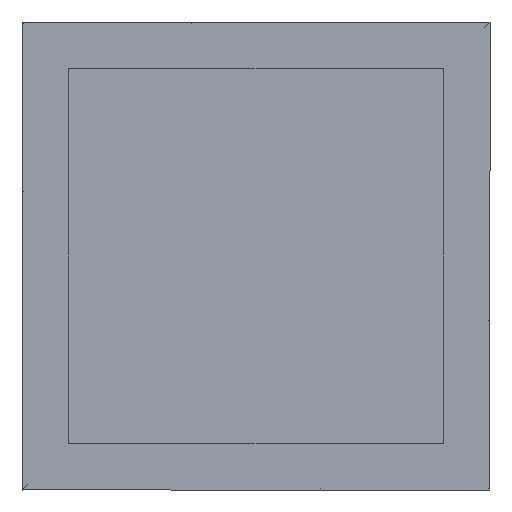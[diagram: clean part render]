
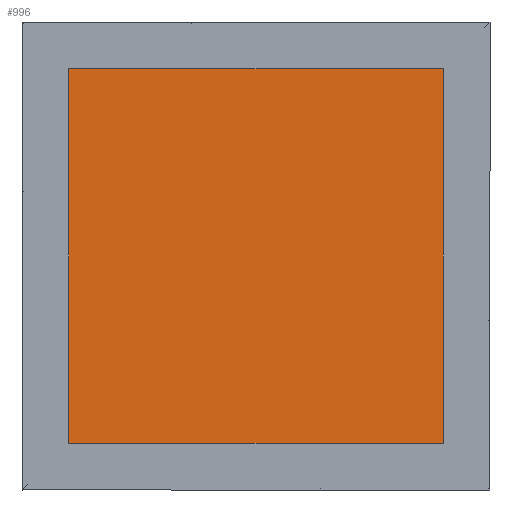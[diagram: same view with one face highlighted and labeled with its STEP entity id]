
A CAD part, front view. The second image highlights one B-rep face of the part: STEP entity #996.
In plain terms, the highlighted planar face has unit normal (0, -1, 0).
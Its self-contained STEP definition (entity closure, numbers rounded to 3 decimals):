
#20 = LINE ( 'NONE', #785, #889 ) ;
#77 = DIRECTION ( 'NONE',  ( -1., 0., 0. ) ) ;
#118 = CARTESIAN_POINT ( 'NONE',  ( 400., 0., 400. ) ) ;
#156 = VECTOR ( 'NONE', #529, 1000. ) ;
#200 = DIRECTION ( 'NONE',  ( 0., 0., -1. ) ) ;
#206 = VERTEX_POINT ( 'NONE', #790 ) ;
#286 = EDGE_CURVE ( 'NONE', #814, #566, #415, .T. ) ;
#322 = ORIENTED_EDGE ( 'NONE', *, *, #691, .T. ) ;
#348 = EDGE_CURVE ( 'NONE', #524, #206, #690, .T. ) ;
#352 = DIRECTION ( 'NONE',  ( -1., 0., 0. ) ) ;
#364 = PLANE ( 'NONE',  #515 ) ;
#415 = LINE ( 'NONE', #564, #611 ) ;
#510 = FACE_OUTER_BOUND ( 'NONE', #957, .T. ) ;
#515 = AXIS2_PLACEMENT_3D ( 'NONE', #882, #791, #200 ) ;
#521 = ORIENTED_EDGE ( 'NONE', *, *, #950, .F. ) ;
#524 = VERTEX_POINT ( 'NONE', #680 ) ;
#529 = DIRECTION ( 'NONE',  ( 0., 0., -1. ) ) ;
#542 = LINE ( 'NONE', #118, #156 ) ;
#564 = CARTESIAN_POINT ( 'NONE',  ( 400., 0., -400. ) ) ;
#566 = VERTEX_POINT ( 'NONE', #1034 ) ;
#575 = ORIENTED_EDGE ( 'NONE', *, *, #348, .T. ) ;
#582 = VECTOR ( 'NONE', #77, 1000. ) ;
#611 = VECTOR ( 'NONE', #352, 1000. ) ;
#680 = CARTESIAN_POINT ( 'NONE',  ( 400., 0., 400. ) ) ;
#690 = LINE ( 'NONE', #1096, #582 ) ;
#691 = EDGE_CURVE ( 'NONE', #206, #566, #20, .T. ) ;
#785 = CARTESIAN_POINT ( 'NONE',  ( -400., 0., 400. ) ) ;
#790 = CARTESIAN_POINT ( 'NONE',  ( -400., 0., 400. ) ) ;
#791 = DIRECTION ( 'NONE',  ( 0., -1., 0. ) ) ;
#814 = VERTEX_POINT ( 'NONE', #981 ) ;
#882 = CARTESIAN_POINT ( 'NONE',  ( 0., 0., 0. ) ) ;
#889 = VECTOR ( 'NONE', #1044, 1000. ) ;
#950 = EDGE_CURVE ( 'NONE', #524, #814, #542, .T. ) ;
#957 = EDGE_LOOP ( 'NONE', ( #575, #322, #1025, #521 ) ) ;
#981 = CARTESIAN_POINT ( 'NONE',  ( 400., 0., -400. ) ) ;
#996 = ADVANCED_FACE ( 'NONE', ( #510 ), #364, .T. ) ;
#1025 = ORIENTED_EDGE ( 'NONE', *, *, #286, .F. ) ;
#1034 = CARTESIAN_POINT ( 'NONE',  ( -400., 0., -400. ) ) ;
#1044 = DIRECTION ( 'NONE',  ( 0., 0., -1. ) ) ;
#1096 = CARTESIAN_POINT ( 'NONE',  ( 400., 0., 400. ) ) ;
